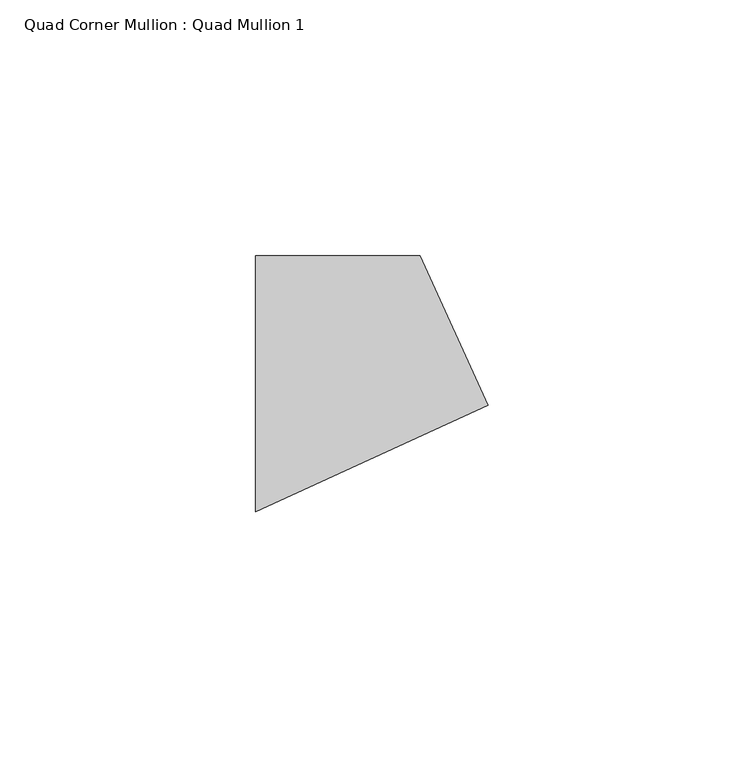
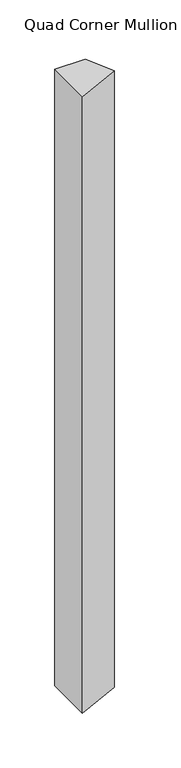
"""IFC4 building model written with IfcOpenShell, lengths in millimetres: member geometry, Quad Corner Mullion : Quad Mullion 1."""

from ifc_helpers import new_model, si_unit, frame, origin, place, context, project, spatial, polyline, outline, extrude, source, transform, mapped, element, save


def quad_corner_mullion_quad_mullion_1_99471b84(model_context):
    return source(origin(), model_context, "Body", "SweptSolid", [
        extrude(outline(polyline([(29.4125559, -4.1926582), (-16.0523154, -25.0), (-16.0523154, 25.0), (16.0523154, 25.0), (29.4125559, -4.1926582)])), frame((0.0, 0.0, -685.0), z_axis=(0.0, 0.0, 1.0), x_axis=(1.0, 0.0, 0.0)), (0.0, 0.0, 1.0), 685.0),
    ])


if __name__ == "__main__":
    model = new_model("IFC4")
    model_context = context("Model", 3, world=origin())
    ifc_project = project(units=[si_unit("LENGTHUNIT", "METRE", prefix="MILLI")], contexts=[model_context])
    site = spatial("IfcSite", under=ifc_project)
    building = spatial("IfcBuilding", under=site)
    placement = place(None, origin())
    quad_corner_mullion_quad_mullion_1_shape = quad_corner_mullion_quad_mullion_1_99471b84(model_context)
    element("IfcMember", 1, ObjectType="Quad Corner Mullion : Quad Mullion 1", at=placement, inside=building, context=model_context, shape_type="MappedRepresentation", body=[
        mapped(quad_corner_mullion_quad_mullion_1_shape, transform((0.0, 0.0, 0.0), x_axis=(1.0, 0.0, 0.0), y_axis=(0.0, 1.0, 0.0), z_axis=(0.0, 0.0, 1.0))),
    ])
    save(model, "model.ifc")
